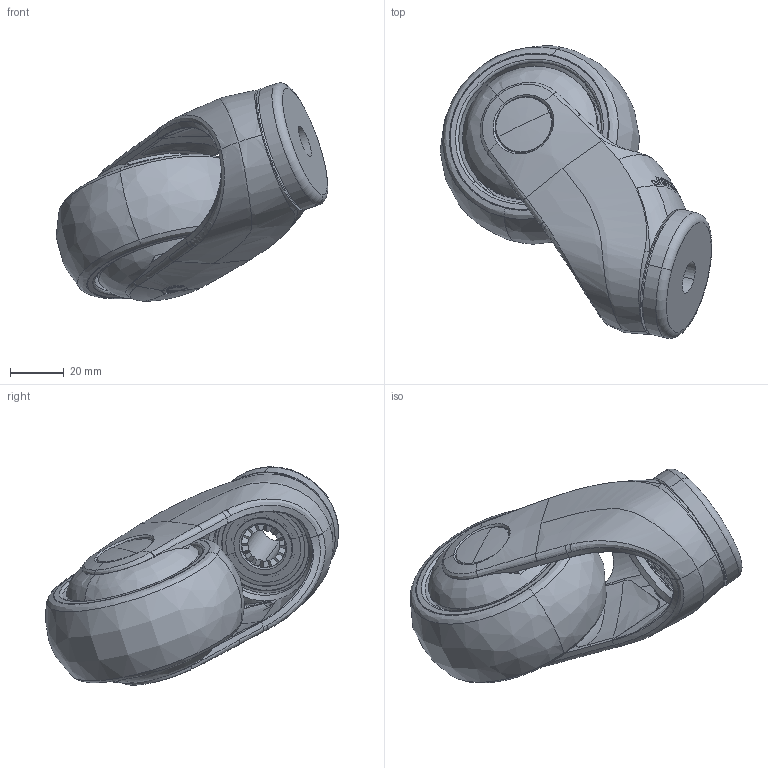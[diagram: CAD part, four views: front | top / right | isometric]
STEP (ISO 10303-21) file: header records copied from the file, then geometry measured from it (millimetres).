
FILE_DESCRIPTION (( 'STEP AP203' ), '1' );
FILE_NAME ('GK-S-75 PTE-K 80-12.STEP', '2019-11-07T08:06:26', ( '' ), ( '' ), 'SwSTEP 2.0', 'SolidWorks 2017', '' );
FILE_SCHEMA (( 'CONFIG_CONTROL_DESIGN' ));
Products named in the file (1): GK-S-75 PTE-K 80-12
Bounding box: 101.06 x 109.09 x 81.26 mm (x, y, z)
Surface area: 92670.3 mm2 (no closed solid volume)
Topology: 0 solids, 20 shells, 640 faces, 1904 edges, 1314 vertices
Faces by surface type: bspline 190, plane 185, cylinder 126, cone 81, torus 42, sphere 16
Entity records: 52461 total; most frequent: CARTESIAN_POINT 37646, ORIENTED_EDGE 3689, DIRECTION 2267, EDGE_CURVE 1850, VERTEX_POINT 1288, AXIS2_PLACEMENT_3D 954, B_SPLINE_CURVE_WITH_KNOTS 858, EDGE_LOOP 701
